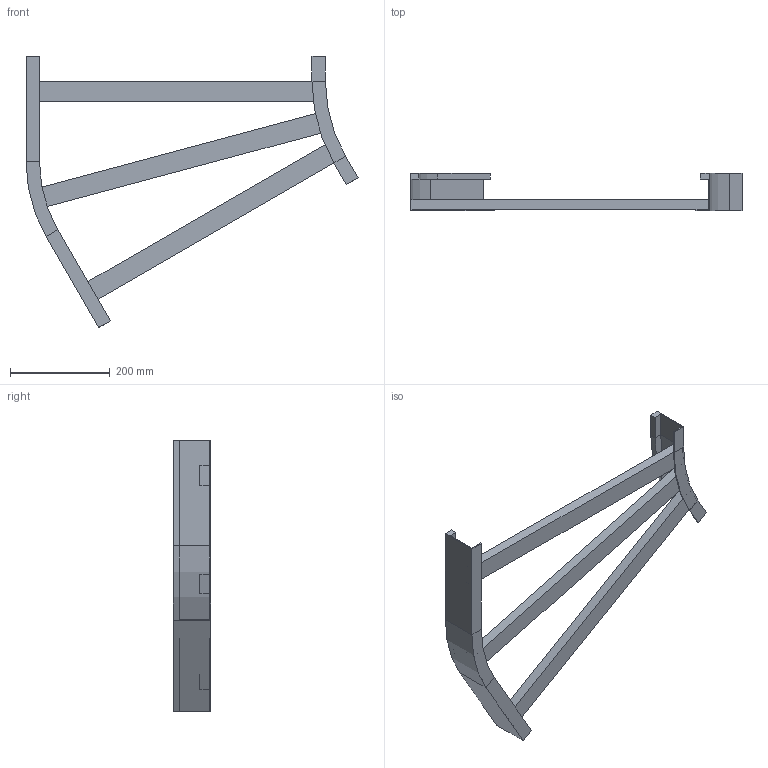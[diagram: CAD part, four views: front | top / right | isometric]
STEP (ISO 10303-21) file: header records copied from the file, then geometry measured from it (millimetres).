
FILE_DESCRIPTION (( 'STEP AP214' ), '1' );
FILE_NAME ('B2_12B3C600.step', '2025-02-21T15:11:22', ( '' ), ( '' ), 'SwSTEP 2.0', 'SolidWorks 2023', '' );
FILE_SCHEMA (( 'AUTOMOTIVE_DESIGN' ));
Length unit declared in the file: millimetre
Products named in the file (5): B2_LONGH.INTERNO 30°_H75_R300; TRAVERSINO_L616; B2_LONGH.ESTERNO 30°_H75_R300+600; TRAVERSINO_600; B2_12B3C600
Assembly tree (5 placements, depth 2):
  B2_12B3C600
    B2_LONGH.INTERNO 30°_H75_R300
    B2_LONGH.ESTERNO 30°_H75_R300+600
    TRAVERSINO_600  x2
    TRAVERSINO_L616
Bounding box: 665.19 x 75 x 543.3 mm (x, y, z)
Volume: 1792073.7 mm3; surface area: 422420.8 mm2
Topology: 5 solids, 5 shells, 70 faces, 148 edges, 88 vertices
Faces by surface type: plane 62, cylinder 8
Entity records: 1822 total; most frequent: DIRECTION 296, CARTESIAN_POINT 288, ORIENTED_EDGE 272, EDGE_CURVE 136, LINE 120, VECTOR 120, AXIS2_PLACEMENT_3D 88, VERTEX_POINT 80
